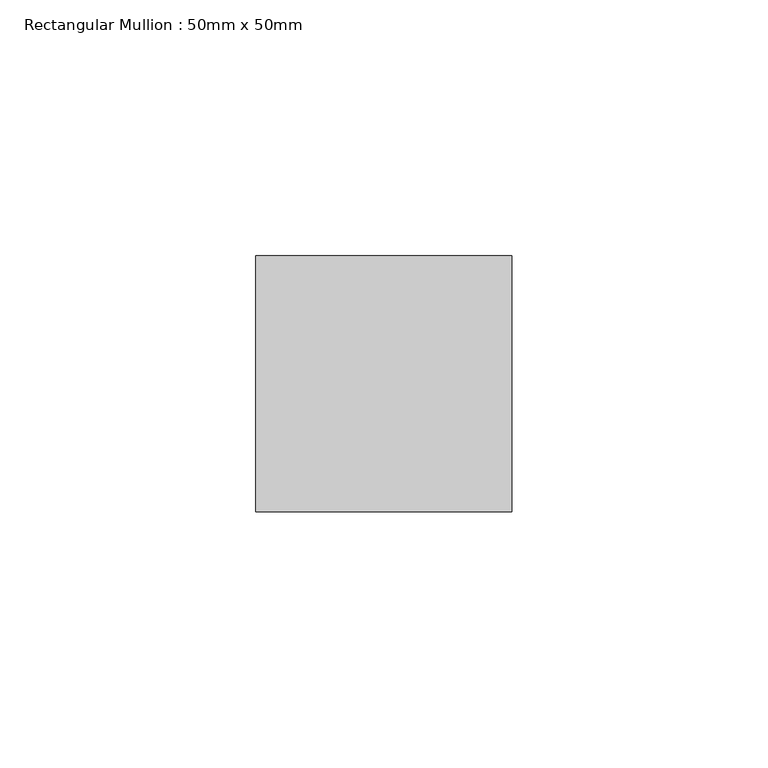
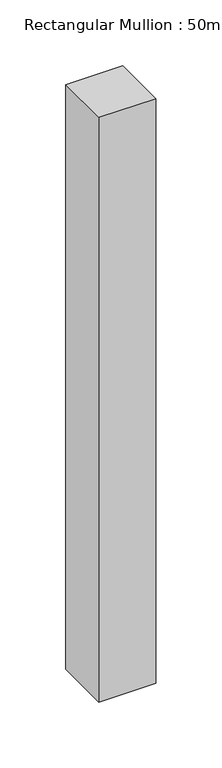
"""IFC4 building model written with IfcOpenShell, lengths in millimetres: member geometry, Rectangular Mullion : 50mm x 50mm."""

from ifc_helpers import new_model, si_unit, frame, origin, place, context, project, spatial, polyline, outline, extrude, source, transform, mapped, element, save


def rectangular_mullion_50mm_x_50mm_1bcf33d0(model_context):
    return source(origin(), model_context, "Body", "SweptSolid", [
        extrude(outline(polyline([(0.0, 25.0), (0.0, -25.0), (-50.0, -25.0), (-50.0, 25.0), (0.0, 25.0)])), frame((0.0, 0.0, -542.1747277), z_axis=(0.0, 0.0, 1.0), x_axis=(1.0, 0.0, 0.0)), (0.0, 0.0, 1.0), 542.1747277),
    ])


if __name__ == "__main__":
    model = new_model("IFC4")
    model_context = context("Model", 3, world=origin())
    ifc_project = project(units=[si_unit("LENGTHUNIT", "METRE", prefix="MILLI")], contexts=[model_context])
    site = spatial("IfcSite", under=ifc_project)
    building = spatial("IfcBuilding", under=site)
    placement = place(None, origin())
    rectangular_mullion_50mm_x_50mm_shape = rectangular_mullion_50mm_x_50mm_1bcf33d0(model_context)
    element("IfcMember", 1, ObjectType="Rectangular Mullion : 50mm x 50mm", at=placement, inside=building, context=model_context, shape_type="MappedRepresentation", body=[
        mapped(rectangular_mullion_50mm_x_50mm_shape, transform((0.0, 0.0, 0.0), x_axis=(1.0, 0.0, 0.0), y_axis=(0.0, 1.0, 0.0), z_axis=(0.0, 0.0, 1.0))),
    ])
    save(model, "model.ifc")
